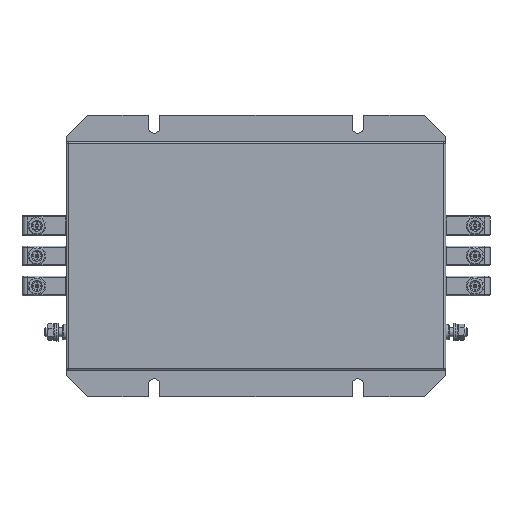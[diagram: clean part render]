
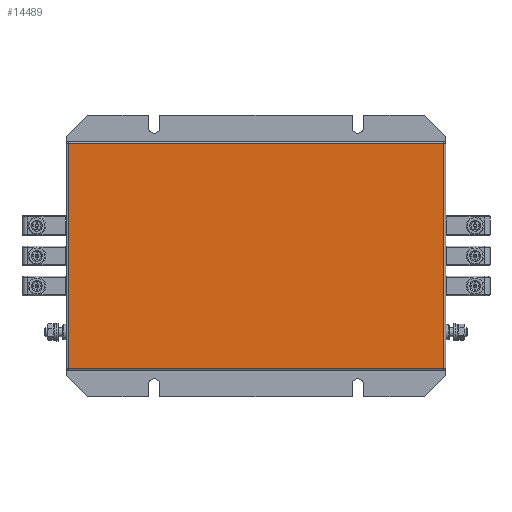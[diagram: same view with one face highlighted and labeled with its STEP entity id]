
A CAD part, top view. The second image highlights one B-rep face of the part: STEP entity #14489.
In plain terms, the highlighted planar face has unit normal (0, 0, 1).
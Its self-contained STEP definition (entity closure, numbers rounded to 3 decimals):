
#14199=CARTESIAN_POINT('',(-106.,63.5,64.0));
#14200=VERTEX_POINT('',#14199);
#14209=CARTESIAN_POINT('',(-106.,-63.5,64.0));
#14210=VERTEX_POINT('',#14209);
#14218=CARTESIAN_POINT('',(-106.,-63.5,64.0));
#14219=DIRECTION('',(0.0,1.0,0.0));
#14220=VECTOR('',#14219,127.);
#14221=LINE('',#14218,#14220);
#14222=EDGE_CURVE('',#14210,#14200,#14221,.T.);
#14232=CARTESIAN_POINT('',(106.,63.5,64.0));
#14233=VERTEX_POINT('',#14232);
#14258=CARTESIAN_POINT('',(-106.,63.5,64.0));
#14259=DIRECTION('',(1.0,0.0,0.0));
#14260=VECTOR('',#14259,212.);
#14261=LINE('',#14258,#14260);
#14262=EDGE_CURVE('',#14200,#14233,#14261,.T.);
#14289=CARTESIAN_POINT('',(106.,-63.5,64.0));
#14290=VERTEX_POINT('',#14289);
#14306=CARTESIAN_POINT('',(106.,63.5,64.0));
#14307=DIRECTION('',(0.0,-1.0,0.0));
#14308=VECTOR('',#14307,127.);
#14309=LINE('',#14306,#14308);
#14310=EDGE_CURVE('',#14233,#14290,#14309,.T.);
#14361=CARTESIAN_POINT('',(106.,-63.5,64.0));
#14362=DIRECTION('',(-1.0,0.0,0.0));
#14363=VECTOR('',#14362,212.);
#14364=LINE('',#14361,#14363);
#14365=EDGE_CURVE('',#14290,#14210,#14364,.T.);
#14478=CARTESIAN_POINT('',(0.0,0.0,64.0));
#14479=DIRECTION('',(0.0,0.0,1.0));
#14480=DIRECTION('',(1.0,0.0,0.0));
#14481=AXIS2_PLACEMENT_3D('',#14478,#14479,#14480);
#14482=PLANE('',#14481);
#14483=ORIENTED_EDGE('',*,*,#14222,.F.);
#14484=ORIENTED_EDGE('',*,*,#14365,.F.);
#14485=ORIENTED_EDGE('',*,*,#14310,.F.);
#14486=ORIENTED_EDGE('',*,*,#14262,.F.);
#14487=EDGE_LOOP('',(#14483,#14484,#14485,#14486));
#14488=FACE_OUTER_BOUND('',#14487,.T.);
#14489=ADVANCED_FACE('',(#14488),#14482,.T.);
